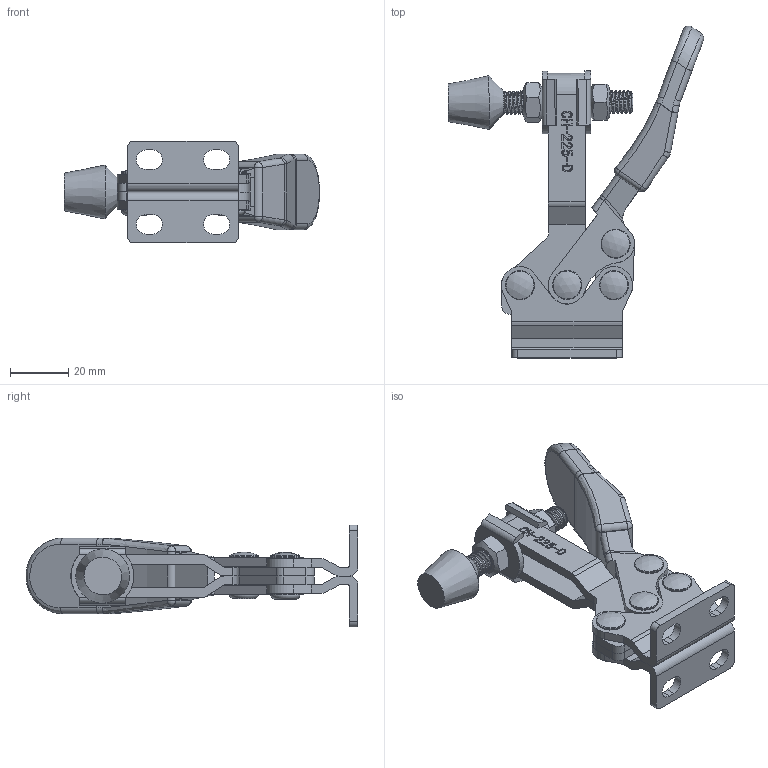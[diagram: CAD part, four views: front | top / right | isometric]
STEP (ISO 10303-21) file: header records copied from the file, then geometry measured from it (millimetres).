
FILE_DESCRIPTION(/* description */ ('STEP AP203'),/* implementation_level */ '2;1');
FILE_NAME(/* name */ 'E:\STRONA\Horizontal toggle clamp\CH-225-D\CH-225-D_OTWARTY.stp',/* time_stamp */ '2019-01-15T14:49:34+01:00',/* author */ ('Admin'),/* organization */ ('·L?¤¤?'),/* preprocessor_version */ 'ST-DEVELOPER v17.2',/* originating_system */ 'Autodesk Inventor 2019',/* authorisation */ '');
FILE_SCHEMA (('AUTOMOTIVE_DESIGN { 1 0 10303 214 3 1 1 }'));
Products named in the file (11): CH-225-D_OTWARTY; 225-D-02___; CH-FC-56212___; 225-D-01___; 225-D-04___; 225-D-03___; 225-D-03____1; 1___; FW-516___; 56212-01___; 225-D-05___
Assembly tree (16 placements, depth 3):
  CH-225-D_OTWARTY
    225-D-02___
    225-D-05___  x4
    CH-FC-56212___
    225-D-04___  x2
    225-D-01___
    56212-01___  x2
    225-D-03___
      225-D-03____1
      1___
    FW-516___  x2
Bounding box: 87.88 x 114.17 x 35 mm (x, y, z)
Volume: 42668.1 mm3; surface area: 37896.7 mm2
Topology: 17 solids, 17 shells, 759 faces, 2086 edges, 1391 vertices
Faces by surface type: plane 332, bspline 194, cylinder 185, torus 20, cone 16, sphere 12
Full cylindrical faces by diameter (mm): 3 x1, 4 x1, 4.833 x4, 6.3 x10, 6.4 x16, 7.92 x32, 8.1 x2, 10 x8
Entity records: 50135 total; most frequent: CARTESIAN_POINT 33529, ORIENTED_EDGE 3738, DIRECTION 2765, EDGE_CURVE 1869, VERTEX_POINT 1240, LINE 1047, VECTOR 1047, AXIS2_PLACEMENT_3D 859
